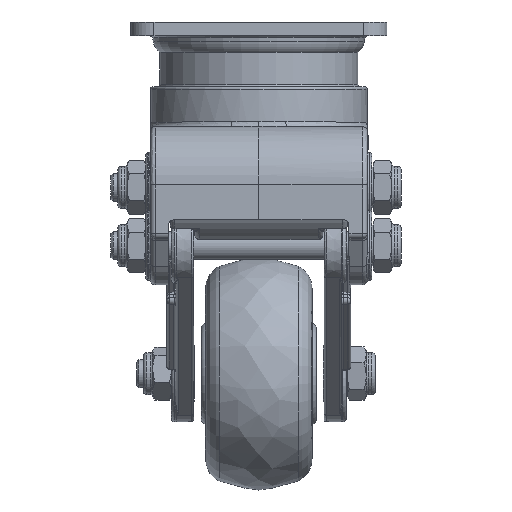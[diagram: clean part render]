
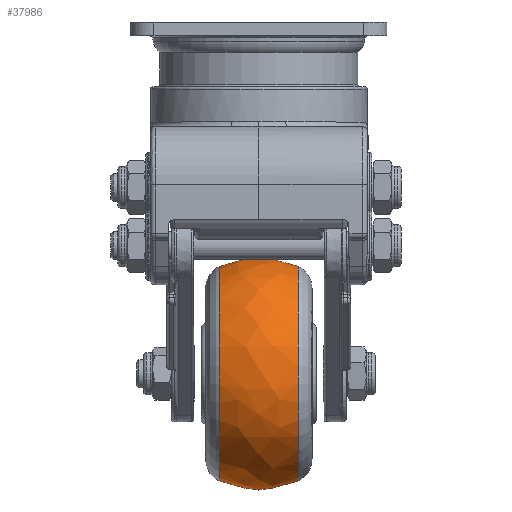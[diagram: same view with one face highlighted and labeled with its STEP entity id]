
A CAD part, left-side view. The second image highlights one B-rep face of the part: STEP entity #37986.
In plain terms, the highlighted free-form (B-spline) face has degree [2, 2] with [3, 9] control points.
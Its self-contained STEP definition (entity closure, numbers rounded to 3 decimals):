
#18=(
BOUNDED_SURFACE()
B_SPLINE_SURFACE(2,2,((#70548,#70549,#70550,#70551,#70552,#70553,#70554,
#70555,#70556),(#70557,#70558,#70559,#70560,#70561,#70562,#70563,#70564,
#70565),(#70566,#70567,#70568,#70569,#70570,#70571,#70572,#70573,#70574)),
 .UNSPECIFIED.,.F.,.T.,.F.)
B_SPLINE_SURFACE_WITH_KNOTS((3,3),(3,2,2,2,3),(-0.44,0.44),
(-3.142,-1.571,0.,1.571,3.142),
 .UNSPECIFIED.)
GEOMETRIC_REPRESENTATION_ITEM()
RATIONAL_B_SPLINE_SURFACE(((1.,0.707,1.,0.707,1.,
0.707,1.,0.707,1.),(0.905,0.64,
0.905,0.64,0.905,0.64,
0.905,0.64,0.905),(1.,0.707,
1.,0.707,1.,0.707,1.,0.707,1.)))
REPRESENTATION_ITEM('')
SURFACE()
);
#9625=FACE_OUTER_BOUND('',#11802,.T.);
#11802=EDGE_LOOP('',(#33360,#33361,#33362,#33363,#33364,#33365));
#12827=CIRCLE('',#40513,23.096);
#12828=CIRCLE('',#40514,23.096);
#12829=CIRCLE('',#40515,20.);
#12830=CIRCLE('',#40516,23.096);
#12831=CIRCLE('',#40517,23.096);
#17656=VERTEX_POINT('',#70575);
#17657=VERTEX_POINT('',#70576);
#17658=VERTEX_POINT('',#70579);
#17659=VERTEX_POINT('',#70581);
#22957=EDGE_CURVE('',#17656,#17657,#12827,.T.);
#22958=EDGE_CURVE('',#17657,#17656,#12828,.T.);
#22959=EDGE_CURVE('',#17657,#17658,#12829,.T.);
#22960=EDGE_CURVE('',#17658,#17659,#12830,.T.);
#22961=EDGE_CURVE('',#17659,#17658,#12831,.T.);
#33360=ORIENTED_EDGE('',*,*,#22957,.F.);
#33361=ORIENTED_EDGE('',*,*,#22958,.F.);
#33362=ORIENTED_EDGE('',*,*,#22959,.T.);
#33363=ORIENTED_EDGE('',*,*,#22960,.T.);
#33364=ORIENTED_EDGE('',*,*,#22961,.T.);
#33365=ORIENTED_EDGE('',*,*,#22959,.F.);
#37986=ADVANCED_FACE('',(#9625),#18,.F.);
#40513=AXIS2_PLACEMENT_3D('',#70577,#48068,#48069);
#40514=AXIS2_PLACEMENT_3D('',#70578,#48070,#48071);
#40515=AXIS2_PLACEMENT_3D('',#70580,#48072,#48073);
#40516=AXIS2_PLACEMENT_3D('',#70582,#48074,#48075);
#40517=AXIS2_PLACEMENT_3D('',#70583,#48076,#48077);
#48068=DIRECTION('center_axis',(0.,-1.,0.));
#48069=DIRECTION('ref_axis',(-0.412,0.,-0.911));
#48070=DIRECTION('center_axis',(0.,-1.,0.));
#48071=DIRECTION('ref_axis',(-0.412,0.,-0.911));
#48072=DIRECTION('center_axis',(-0.911,0.,
0.412));
#48073=DIRECTION('ref_axis',(0.412,0.,0.911));
#48074=DIRECTION('center_axis',(0.,-1.,0.));
#48075=DIRECTION('ref_axis',(-0.412,0.,-0.911));
#48076=DIRECTION('center_axis',(0.,-1.,0.));
#48077=DIRECTION('ref_axis',(-0.412,0.,-0.911));
#70548=CARTESIAN_POINT('Ctrl Pts',(27.012,11.255,-50.26));
#70549=CARTESIAN_POINT('Ctrl Pts',(5.968,11.255,-40.743));
#70550=CARTESIAN_POINT('Ctrl Pts',(-3.549,11.255,-61.787));
#70551=CARTESIAN_POINT('Ctrl Pts',(-13.066,11.255,-82.831));
#70552=CARTESIAN_POINT('Ctrl Pts',(7.978,11.255,-92.349));
#70553=CARTESIAN_POINT('Ctrl Pts',(29.022,11.255,-101.866));
#70554=CARTESIAN_POINT('Ctrl Pts',(38.539,11.255,-80.822));
#70555=CARTESIAN_POINT('Ctrl Pts',(48.057,11.255,-59.778));
#70556=CARTESIAN_POINT('Ctrl Pts',(27.012,11.255,-50.26));
#70557=CARTESIAN_POINT('Ctrl Pts',(28.664,2.739,-46.609));
#70558=CARTESIAN_POINT('Ctrl Pts',(3.968,2.739,-35.44));
#70559=CARTESIAN_POINT('Ctrl Pts',(-7.201,2.739,-60.136));
#70560=CARTESIAN_POINT('Ctrl Pts',(-18.37,2.739,-84.831));
#70561=CARTESIAN_POINT('Ctrl Pts',(6.326,2.739,-96.));
#70562=CARTESIAN_POINT('Ctrl Pts',(31.022,2.739,-107.169));
#70563=CARTESIAN_POINT('Ctrl Pts',(42.191,2.739,-82.473));
#70564=CARTESIAN_POINT('Ctrl Pts',(53.36,2.739,-57.777));
#70565=CARTESIAN_POINT('Ctrl Pts',(28.664,2.739,-46.609));
#70566=CARTESIAN_POINT('Ctrl Pts',(27.012,-5.777,-50.26));
#70567=CARTESIAN_POINT('Ctrl Pts',(5.968,-5.777,-40.743));
#70568=CARTESIAN_POINT('Ctrl Pts',(-3.549,-5.777,
-61.787));
#70569=CARTESIAN_POINT('Ctrl Pts',(-13.066,-5.777,-82.831));
#70570=CARTESIAN_POINT('Ctrl Pts',(7.978,-5.777,-92.349));
#70571=CARTESIAN_POINT('Ctrl Pts',(29.022,-5.777,-101.866));
#70572=CARTESIAN_POINT('Ctrl Pts',(38.539,-5.777,-80.822));
#70573=CARTESIAN_POINT('Ctrl Pts',(48.057,-5.777,-59.778));
#70574=CARTESIAN_POINT('Ctrl Pts',(27.012,-5.777,-50.26));
#70575=CARTESIAN_POINT('',(7.978,-5.777,-92.349));
#70576=CARTESIAN_POINT('',(27.012,-5.777,-50.26));
#70577=CARTESIAN_POINT('Origin',(17.495,-5.777,-71.304));
#70578=CARTESIAN_POINT('Origin',(17.495,-5.777,-71.304));
#70579=CARTESIAN_POINT('',(27.012,11.255,-50.26));
#70580=CARTESIAN_POINT('Origin',(19.555,2.739,-66.749));
#70581=CARTESIAN_POINT('',(7.978,11.255,-92.349));
#70582=CARTESIAN_POINT('Origin',(17.495,11.255,-71.304));
#70583=CARTESIAN_POINT('Origin',(17.495,11.255,-71.304));
